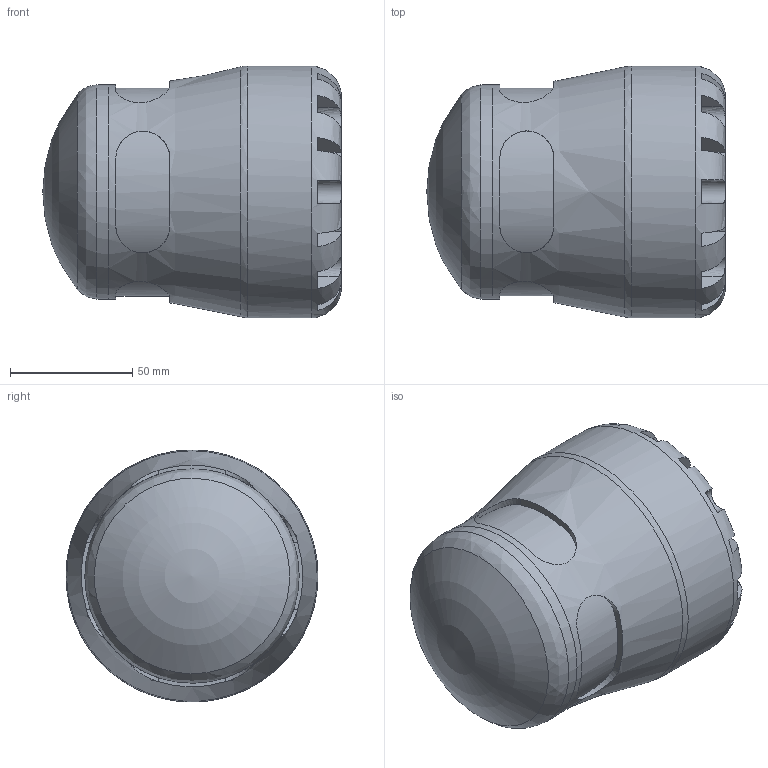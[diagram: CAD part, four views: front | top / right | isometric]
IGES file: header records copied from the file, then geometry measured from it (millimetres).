
Global section: file name: 151200063; native system: Autodesk Inventor 2019; preprocessor: unknown; author: KIM; date: 20231021.225224; units: millimetre
Bounding box: 122 x 103 x 102.98 mm (x, y, z)
Volume: 479380.4 mm3; surface area: 68008.8 mm2
Topology: 1 solids, 1 shells, 95 faces, 249 edges, 160 vertices
Faces by surface type: bspline 95
